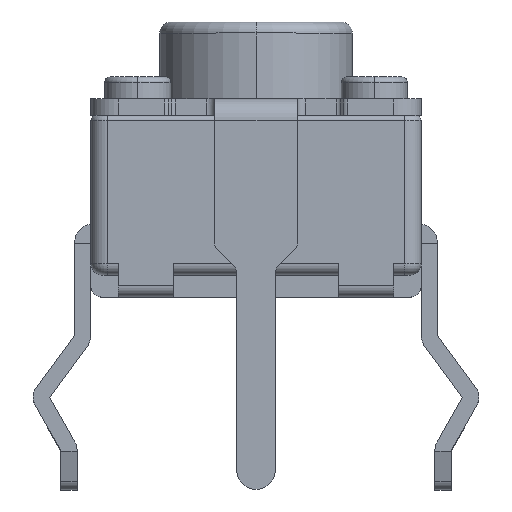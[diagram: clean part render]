
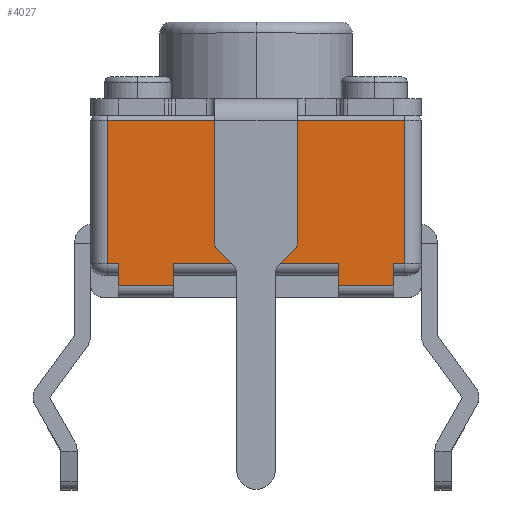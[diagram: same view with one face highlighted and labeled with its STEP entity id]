
A CAD part, top view. The second image highlights one B-rep face of the part: STEP entity #4027.
In plain terms, the highlighted planar face has unit normal (0, 0, 1).
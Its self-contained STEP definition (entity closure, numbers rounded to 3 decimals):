
#3920 = ORIENTED_EDGE ( 'NONE', *, *, #4015, .F. ) ;
#3958 = EDGE_LOOP ( 'NONE', ( #4028, #3920, #4004, #4018, #4012, #4008, #4038, #4063, #4058, #4074, #4070, #4062 ) ) ;
#3960 = EDGE_CURVE ( 'NONE', #4022, #4035, #9007, .T. ) ;
#4000 = VERTEX_POINT ( 'NONE', #9095 ) ;
#4002 = EDGE_CURVE ( 'NONE', #4075, #4000, #9131, .T. ) ;
#4003 = EDGE_CURVE ( 'NONE', #4022, #4057, #9125, .T. ) ;
#4004 = ORIENTED_EDGE ( 'NONE', *, *, #4006, .F. ) ;
#4005 = VERTEX_POINT ( 'NONE', #9121 ) ;
#4006 = EDGE_CURVE ( 'NONE', #4007, #4010, #9120, .T. ) ;
#4007 = VERTEX_POINT ( 'NONE', #8910 ) ;
#4008 = ORIENTED_EDGE ( 'NONE', *, *, #4017, .F. ) ;
#4009 = EDGE_CURVE ( 'NONE', #4005, #4007, #9119, .T. ) ;
#4010 = VERTEX_POINT ( 'NONE', #9175 ) ;
#4012 = ORIENTED_EDGE ( 'NONE', *, *, #4014, .F. ) ;
#4013 = VERTEX_POINT ( 'NONE', #9171 ) ;
#4014 = EDGE_CURVE ( 'NONE', #4013, #4005, #9174, .T. ) ;
#4015 = EDGE_CURVE ( 'NONE', #4010, #4035, #9172, .T. ) ;
#4016 = VERTEX_POINT ( 'NONE', #9169 ) ;
#4017 = EDGE_CURVE ( 'NONE', #4016, #4013, #9161, .T. ) ;
#4018 = ORIENTED_EDGE ( 'NONE', *, *, #4009, .F. ) ;
#4022 = VERTEX_POINT ( 'NONE', #9151 ) ;
#4027 = ADVANCED_FACE ( 'NONE', ( #9157 ), #9170, .F. ) ;
#4028 = ORIENTED_EDGE ( 'NONE', *, *, #3960, .T. ) ;
#4035 = VERTEX_POINT ( 'NONE', #9190 ) ;
#4038 = ORIENTED_EDGE ( 'NONE', *, *, #4081, .T. ) ;
#4054 = EDGE_CURVE ( 'NONE', #4057, #4055, #9295, .T. ) ;
#4055 = VERTEX_POINT ( 'NONE', #9286 ) ;
#4057 = VERTEX_POINT ( 'NONE', #9296 ) ;
#4058 = ORIENTED_EDGE ( 'NONE', *, *, #4073, .T. ) ;
#4062 = ORIENTED_EDGE ( 'NONE', *, *, #4003, .F. ) ;
#4063 = ORIENTED_EDGE ( 'NONE', *, *, #4002, .T. ) ;
#4070 = ORIENTED_EDGE ( 'NONE', *, *, #4054, .F. ) ;
#4073 = EDGE_CURVE ( 'NONE', #4000, #4079, #9323, .T. ) ;
#4074 = ORIENTED_EDGE ( 'NONE', *, *, #4078, .T. ) ;
#4075 = VERTEX_POINT ( 'NONE', #9313 ) ;
#4078 = EDGE_CURVE ( 'NONE', #4079, #4055, #9356, .T. ) ;
#4079 = VERTEX_POINT ( 'NONE', #9346 ) ;
#4081 = EDGE_CURVE ( 'NONE', #4016, #4075, #9342, .T. ) ;
#8910 = CARTESIAN_POINT ( 'NONE',  ( 2.5, 0.6, 3. ) ) ;
#9004 = DIRECTION ( 'NONE',  ( 0., -1., 0. ) ) ;
#9005 = VECTOR ( 'NONE', #9004, 1000. ) ;
#9006 = CARTESIAN_POINT ( 'NONE',  ( 1.5, 0.4, 3. ) ) ;
#9007 = LINE ( 'NONE', #9006, #9005 ) ;
#9095 = CARTESIAN_POINT ( 'NONE',  ( -2.5, 0.6, 3. ) ) ;
#9112 = DIRECTION ( 'NONE',  ( 0., -1., 0. ) ) ;
#9113 = VECTOR ( 'NONE', #9112, 1000. ) ;
#9114 = CARTESIAN_POINT ( 'NONE',  ( 2.5, 0.4, 3. ) ) ;
#9115 = DIRECTION ( 'NONE',  ( -1., 0., 0. ) ) ;
#9117 = VECTOR ( 'NONE', #9115, 1000. ) ;
#9118 = CARTESIAN_POINT ( 'NONE',  ( 0., 0.6, 3. ) ) ;
#9119 = LINE ( 'NONE', #9118, #9117 ) ;
#9120 = LINE ( 'NONE', #9114, #9113 ) ;
#9121 = CARTESIAN_POINT ( 'NONE',  ( 2.7, 0.6, 3. ) ) ;
#9122 = DIRECTION ( 'NONE',  ( -1., 0., 0. ) ) ;
#9123 = VECTOR ( 'NONE', #9122, 1000. ) ;
#9124 = CARTESIAN_POINT ( 'NONE',  ( 0., 0.6, 3. ) ) ;
#9125 = LINE ( 'NONE', #9124, #9123 ) ;
#9126 = DIRECTION ( 'NONE',  ( 1., 0., 0. ) ) ;
#9127 = VECTOR ( 'NONE', #9126, 1000. ) ;
#9130 = CARTESIAN_POINT ( 'NONE',  ( 0., 0.6, 3. ) ) ;
#9131 = LINE ( 'NONE', #9130, #9127 ) ;
#9151 = CARTESIAN_POINT ( 'NONE',  ( 1.5, 0.6, 3. ) ) ;
#9157 = FACE_OUTER_BOUND ( 'NONE', #3958, .T. ) ;
#9158 = DIRECTION ( 'NONE',  ( 1., 0., 0. ) ) ;
#9159 = VECTOR ( 'NONE', #9158, 1000. ) ;
#9160 = CARTESIAN_POINT ( 'NONE',  ( 0., 3.2, 3. ) ) ;
#9161 = LINE ( 'NONE', #9160, #9159 ) ;
#9163 = DIRECTION ( 'NONE',  ( -1., 0., 0. ) ) ;
#9164 = VECTOR ( 'NONE', #9163, 1000. ) ;
#9165 = CARTESIAN_POINT ( 'NONE',  ( 0., 0.2, 3. ) ) ;
#9166 = DIRECTION ( 'NONE',  ( 0., -1., 0. ) ) ;
#9167 = VECTOR ( 'NONE', #9166, 1000. ) ;
#9168 = CARTESIAN_POINT ( 'NONE',  ( 2.7, 3.3, 3. ) ) ;
#9169 = CARTESIAN_POINT ( 'NONE',  ( -2.7, 3.2, 3. ) ) ;
#9170 = PLANE ( 'NONE',  #9185 ) ;
#9171 = CARTESIAN_POINT ( 'NONE',  ( 2.7, 3.2, 3. ) ) ;
#9172 = LINE ( 'NONE', #9165, #9164 ) ;
#9174 = LINE ( 'NONE', #9168, #9167 ) ;
#9175 = CARTESIAN_POINT ( 'NONE',  ( 2.5, 0.2, 3. ) ) ;
#9182 = DIRECTION ( 'NONE',  ( 1., 0., 0. ) ) ;
#9183 = DIRECTION ( 'NONE',  ( 0., 0., -1. ) ) ;
#9184 = CARTESIAN_POINT ( 'NONE',  ( 0., 3.3, 3. ) ) ;
#9185 = AXIS2_PLACEMENT_3D ( 'NONE', #9184, #9183, #9182 ) ;
#9190 = CARTESIAN_POINT ( 'NONE',  ( 1.5, 0.2, 3. ) ) ;
#9278 = DIRECTION ( 'NONE',  ( 0., -1., 0. ) ) ;
#9279 = CARTESIAN_POINT ( 'NONE',  ( -2.5, 0.4, 3. ) ) ;
#9281 = DIRECTION ( 'NONE',  ( 0., -1., 0. ) ) ;
#9282 = VECTOR ( 'NONE', #9281, 1000. ) ;
#9286 = CARTESIAN_POINT ( 'NONE',  ( -1.5, 0.2, 3. ) ) ;
#9294 = CARTESIAN_POINT ( 'NONE',  ( -1.5, 0.4, 3. ) ) ;
#9295 = LINE ( 'NONE', #9294, #9282 ) ;
#9296 = CARTESIAN_POINT ( 'NONE',  ( -1.5, 0.6, 3. ) ) ;
#9311 = VECTOR ( 'NONE', #9278, 1000. ) ;
#9313 = CARTESIAN_POINT ( 'NONE',  ( -2.7, 0.6, 3. ) ) ;
#9323 = LINE ( 'NONE', #9279, #9311 ) ;
#9335 = DIRECTION ( 'NONE',  ( 0., -1., 0. ) ) ;
#9336 = VECTOR ( 'NONE', #9335, 1000. ) ;
#9337 = CARTESIAN_POINT ( 'NONE',  ( -2.7, 3.3, 3. ) ) ;
#9342 = LINE ( 'NONE', #9337, #9336 ) ;
#9344 = DIRECTION ( 'NONE',  ( 1., 0., 0. ) ) ;
#9345 = VECTOR ( 'NONE', #9344, 1000. ) ;
#9346 = CARTESIAN_POINT ( 'NONE',  ( -2.5, 0.2, 3. ) ) ;
#9355 = CARTESIAN_POINT ( 'NONE',  ( 0., 0.2, 3. ) ) ;
#9356 = LINE ( 'NONE', #9355, #9345 ) ;
